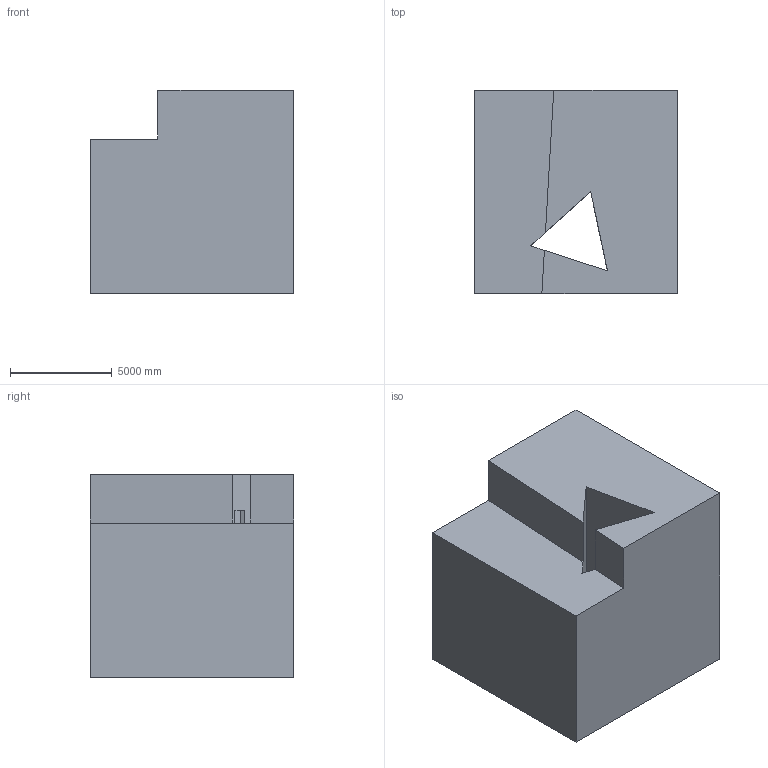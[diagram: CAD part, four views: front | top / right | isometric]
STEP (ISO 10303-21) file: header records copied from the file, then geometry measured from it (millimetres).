
FILE_DESCRIPTION (( 'STEP AP203' ), '1' );
FILE_NAME ('325.STEP', '2022-08-04T14:21:41', ( 'user' ), ( '' ), 'SwSTEP 2.0', 'SolidWorks 2021', '' );
FILE_SCHEMA (( 'CONFIG_CONTROL_DESIGN' ));
Length unit declared in the file: centimetre
Products named in the file (1): 325
Bounding box: 10000 x 10000 x 10000 mm (x, y, z)
Volume: 837271285022.4 mm3; surface area: 686000610.3 mm2
Topology: 1 solids, 1 shells, 22 faces, 63 edges, 42 vertices
Faces by surface type: plane 20, cylinder 2
Entity records: 792 total; most frequent: CARTESIAN_POINT 128, ORIENTED_EDGE 126, DIRECTION 113, EDGE_CURVE 63, VECTOR 59, LINE 59, VERTEX_POINT 42, AXIS2_PLACEMENT_3D 27
